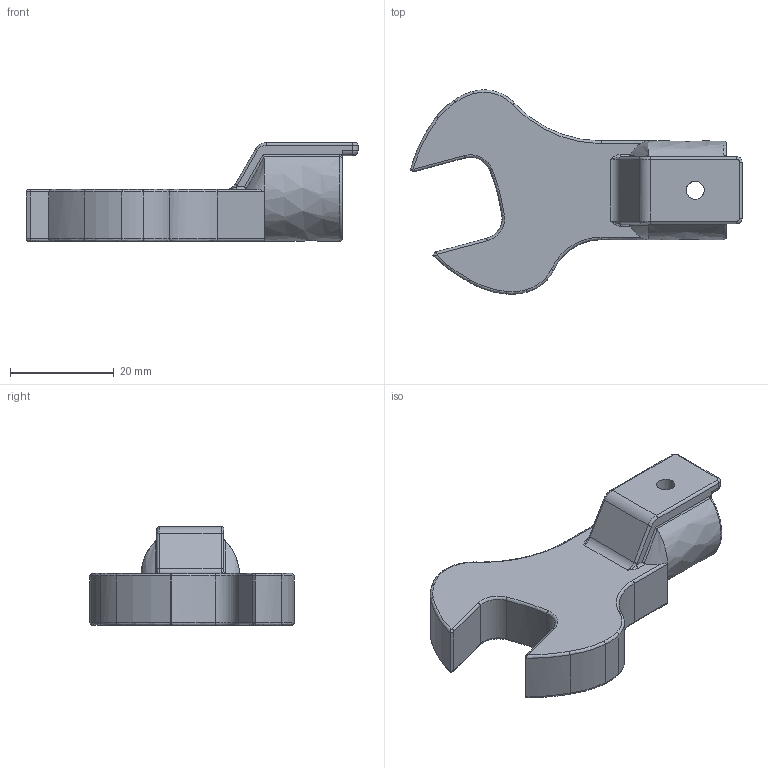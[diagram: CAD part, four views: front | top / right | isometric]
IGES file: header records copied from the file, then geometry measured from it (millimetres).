
Global section: file name: SH12DX16; native system: Autodesk Inventor 2016; preprocessor: unknown; author: Q532; date: 20151029.190935; units: millimetre
Bounding box: 63.86 x 39.3 x 19 mm (x, y, z)
Volume: 13086.8 mm3; surface area: 5431.6 mm2
Topology: 1 solids, 1 shells, 109 faces, 274 edges, 164 vertices
Faces by surface type: bspline 109
